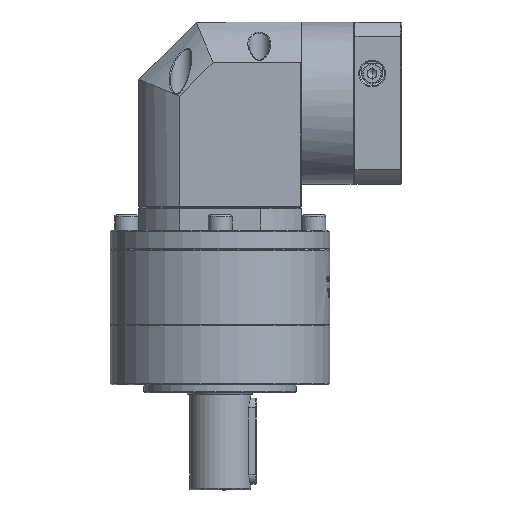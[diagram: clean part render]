
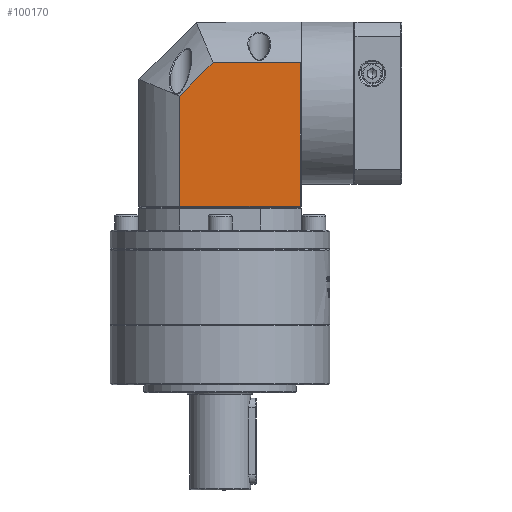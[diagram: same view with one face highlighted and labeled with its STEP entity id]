
A CAD part, front view. The second image highlights one B-rep face of the part: STEP entity #100170.
In plain terms, the highlighted planar face has unit normal (0, -1, 0).
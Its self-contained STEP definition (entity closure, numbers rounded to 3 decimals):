
#8646 = CARTESIAN_POINT ( 'NONE',  ( 185.449, -3.573, 100.302 ) ) ;
#14944 = VECTOR ( 'NONE', #151559, 1000. ) ;
#22503 = CARTESIAN_POINT ( 'NONE',  ( 184.949, -3.573, 79.015 ) ) ;
#22559 = ORIENTED_EDGE ( 'NONE', *, *, #76814, .F. ) ;
#24517 = ORIENTED_EDGE ( 'NONE', *, *, #98287, .F. ) ;
#28728 = LINE ( 'NONE', #122760, #92530 ) ;
#31213 = LINE ( 'NONE', #158902, #149517 ) ;
#32024 = VECTOR ( 'NONE', #63608, 1000. ) ;
#32503 = EDGE_CURVE ( 'NONE', #166951, #97216, #52174, .T. ) ;
#40777 = EDGE_CURVE ( 'NONE', #180005, #187295, #114113, .T. ) ;
#42278 = ORIENTED_EDGE ( 'NONE', *, *, #76029, .F. ) ;
#46422 = AXIS2_PLACEMENT_3D ( 'NONE', #8646, #169634, #51398 ) ;
#49363 = CARTESIAN_POINT ( 'NONE',  ( 184.949, -3.573, 3.802 ) ) ;
#51398 = DIRECTION ( 'NONE',  ( -1., 0., 0. ) ) ;
#52174 = LINE ( 'NONE', #149921, #143243 ) ;
#63608 = DIRECTION ( 'NONE',  ( 0.707, 0., 0.707 ) ) ;
#70183 = CARTESIAN_POINT ( 'NONE',  ( 139.266, -3.573, 79.015 ) ) ;
#70616 = EDGE_LOOP ( 'NONE', ( #102745, #22559, #42278, #155412, #24517 ) ) ;
#75579 = DIRECTION ( 'NONE',  ( 1., 0., 0. ) ) ;
#76029 = EDGE_CURVE ( 'NONE', #187295, #171722, #31213, .T. ) ;
#76632 = LINE ( 'NONE', #166857, #14944 ) ;
#76814 = EDGE_CURVE ( 'NONE', #171722, #97216, #76632, .T. ) ;
#92530 = VECTOR ( 'NONE', #137320, 1000. ) ;
#97216 = VERTEX_POINT ( 'NONE', #49363 ) ;
#98287 = EDGE_CURVE ( 'NONE', #166951, #180005, #28728, .T. ) ;
#100170 = ADVANCED_FACE ( 'NONE', ( #134503 ), #123999, .F. ) ;
#102745 = ORIENTED_EDGE ( 'NONE', *, *, #32503, .T. ) ;
#114113 = LINE ( 'NONE', #150658, #32024 ) ;
#116435 = CARTESIAN_POINT ( 'NONE',  ( 121.735, -3.573, 61.484 ) ) ;
#122760 = CARTESIAN_POINT ( 'NONE',  ( 121.735, -3.573, 100.302 ) ) ;
#123999 = PLANE ( 'NONE',  #46422 ) ;
#134503 = FACE_OUTER_BOUND ( 'NONE', #70616, .T. ) ;
#137320 = DIRECTION ( 'NONE',  ( 0., 0., 1. ) ) ;
#143243 = VECTOR ( 'NONE', #75579, 1000. ) ;
#149517 = VECTOR ( 'NONE', #186317, 1000. ) ;
#149921 = CARTESIAN_POINT ( 'NONE',  ( 185.449, -3.573, 3.802 ) ) ;
#150658 = CARTESIAN_POINT ( 'NONE',  ( 121.735, -3.573, 61.484 ) ) ;
#151559 = DIRECTION ( 'NONE',  ( 0., 0., -1. ) ) ;
#155412 = ORIENTED_EDGE ( 'NONE', *, *, #40777, .F. ) ;
#158902 = CARTESIAN_POINT ( 'NONE',  ( 185.449, -3.573, 79.015 ) ) ;
#166857 = CARTESIAN_POINT ( 'NONE',  ( 184.949, -3.573, 100.302 ) ) ;
#166951 = VERTEX_POINT ( 'NONE', #174307 ) ;
#169634 = DIRECTION ( 'NONE',  ( 0., 1., 0. ) ) ;
#171722 = VERTEX_POINT ( 'NONE', #22503 ) ;
#174307 = CARTESIAN_POINT ( 'NONE',  ( 121.735, -3.573, 3.802 ) ) ;
#180005 = VERTEX_POINT ( 'NONE', #116435 ) ;
#186317 = DIRECTION ( 'NONE',  ( 1., 0., 0. ) ) ;
#187295 = VERTEX_POINT ( 'NONE', #70183 ) ;
